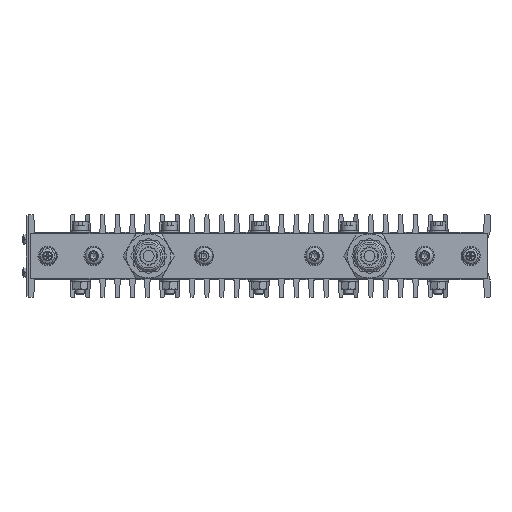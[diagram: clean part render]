
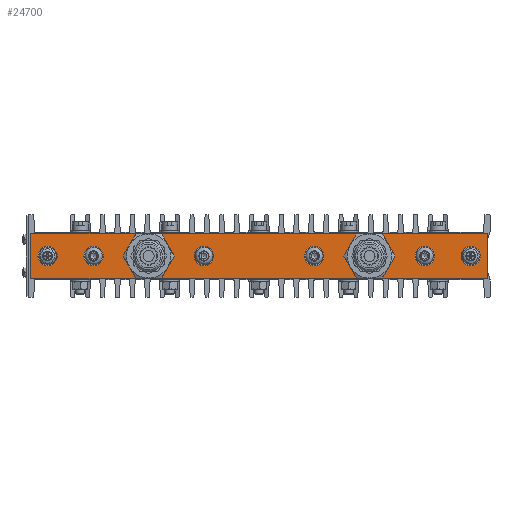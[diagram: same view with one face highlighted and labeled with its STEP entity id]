
A CAD part, front view. The second image highlights one B-rep face of the part: STEP entity #24700.
In plain terms, the highlighted planar face has unit normal (0, -1, 0).
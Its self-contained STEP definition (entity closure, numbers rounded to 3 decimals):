
#679=LINE($,#37001,#2047);
#680=LINE($,#37003,#2048);
#681=LINE($,#37005,#2049);
#682=LINE($,#37006,#2050);
#2047=VECTOR($,#29729,248.);
#2048=VECTOR($,#29730,25.);
#2049=VECTOR($,#29731,248.);
#2050=VECTOR($,#29732,25.);
#3936=PLANE($,#26409);
#4687=FACE_BOUND($,#6944,.T.);
#4688=FACE_BOUND($,#6945,.T.);
#4689=FACE_BOUND($,#6946,.T.);
#4690=FACE_BOUND($,#6947,.T.);
#4691=FACE_BOUND($,#6948,.T.);
#4692=FACE_BOUND($,#6949,.T.);
#4693=FACE_BOUND($,#6950,.T.);
#4694=FACE_BOUND($,#6951,.T.);
#4695=FACE_BOUND($,#6952,.T.);
#6944=EDGE_LOOP($,(#16408));
#6945=EDGE_LOOP($,(#16409));
#6946=EDGE_LOOP($,(#16410));
#6947=EDGE_LOOP($,(#16411));
#6948=EDGE_LOOP($,(#16412));
#6949=EDGE_LOOP($,(#16413));
#6950=EDGE_LOOP($,(#16414));
#6951=EDGE_LOOP($,(#16415,#16416,#16417,#16418));
#6952=EDGE_LOOP($,(#16419));
#8980=CIRCLE($,#26408,12.);
#8981=CIRCLE($,#26410,12.);
#8982=CIRCLE($,#26411,5.25);
#8983=CIRCLE($,#26412,5.25);
#8984=CIRCLE($,#26413,5.25);
#8985=CIRCLE($,#26414,5.25);
#8986=CIRCLE($,#26415,5.25);
#8987=CIRCLE($,#26416,5.25);
#10306=VERTEX_POINT($,#36982);
#10307=VERTEX_POINT($,#36985);
#10308=VERTEX_POINT($,#36987);
#10309=VERTEX_POINT($,#36989);
#10310=VERTEX_POINT($,#36991);
#10311=VERTEX_POINT($,#36993);
#10312=VERTEX_POINT($,#36995);
#10313=VERTEX_POINT($,#36997);
#10314=VERTEX_POINT($,#36999);
#10315=VERTEX_POINT($,#37000);
#10316=VERTEX_POINT($,#37002);
#10317=VERTEX_POINT($,#37004);
#12753=EDGE_CURVE($,#10306,#10306,#8980,.T.);
#12754=EDGE_CURVE($,#10307,#10307,#8981,.T.);
#12755=EDGE_CURVE($,#10308,#10308,#8982,.T.);
#12756=EDGE_CURVE($,#10309,#10309,#8983,.T.);
#12757=EDGE_CURVE($,#10310,#10310,#8984,.T.);
#12758=EDGE_CURVE($,#10311,#10311,#8985,.T.);
#12759=EDGE_CURVE($,#10312,#10312,#8986,.T.);
#12760=EDGE_CURVE($,#10313,#10313,#8987,.T.);
#12761=EDGE_CURVE($,#10314,#10315,#679,.T.);
#12762=EDGE_CURVE($,#10315,#10316,#680,.T.);
#12763=EDGE_CURVE($,#10316,#10317,#681,.T.);
#12764=EDGE_CURVE($,#10317,#10314,#682,.T.);
#16408=ORIENTED_EDGE($,*,*,#12754,.T.);
#16409=ORIENTED_EDGE($,*,*,#12755,.T.);
#16410=ORIENTED_EDGE($,*,*,#12756,.T.);
#16411=ORIENTED_EDGE($,*,*,#12757,.T.);
#16412=ORIENTED_EDGE($,*,*,#12758,.T.);
#16413=ORIENTED_EDGE($,*,*,#12759,.T.);
#16414=ORIENTED_EDGE($,*,*,#12760,.T.);
#16415=ORIENTED_EDGE($,*,*,#12761,.T.);
#16416=ORIENTED_EDGE($,*,*,#12762,.T.);
#16417=ORIENTED_EDGE($,*,*,#12763,.T.);
#16418=ORIENTED_EDGE($,*,*,#12764,.T.);
#16419=ORIENTED_EDGE($,*,*,#12753,.T.);
#24700=ADVANCED_FACE($,(#4687,#4688,#4689,#4690,#4691,#4692,#4693,#4694,
#4695),#3936,.F.);
#26408=AXIS2_PLACEMENT_3D($,#36983,#29711,#29712);
#26409=AXIS2_PLACEMENT_3D($,#36984,#29713,#29714);
#26410=AXIS2_PLACEMENT_3D($,#36986,#29715,#29716);
#26411=AXIS2_PLACEMENT_3D($,#36988,#29717,#29718);
#26412=AXIS2_PLACEMENT_3D($,#36990,#29719,#29720);
#26413=AXIS2_PLACEMENT_3D($,#36992,#29721,#29722);
#26414=AXIS2_PLACEMENT_3D($,#36994,#29723,#29724);
#26415=AXIS2_PLACEMENT_3D($,#36996,#29725,#29726);
#26416=AXIS2_PLACEMENT_3D($,#36998,#29727,#29728);
#29711=DIRECTION('center_axis',(0.,1.,0.));
#29712=DIRECTION('ref_axis',(1.,0.,0.));
#29713=DIRECTION('center_axis',(0.,1.,0.));
#29714=DIRECTION('ref_axis',(0.,0.,1.));
#29715=DIRECTION('center_axis',(0.,1.,0.));
#29716=DIRECTION('ref_axis',(1.,0.,0.));
#29717=DIRECTION('center_axis',(0.,1.,0.));
#29718=DIRECTION('ref_axis',(-1.,0.,0.));
#29719=DIRECTION('center_axis',(0.,1.,0.));
#29720=DIRECTION('ref_axis',(-1.,0.,0.));
#29721=DIRECTION('center_axis',(0.,1.,0.));
#29722=DIRECTION('ref_axis',(-1.,0.,0.));
#29723=DIRECTION('center_axis',(0.,1.,0.));
#29724=DIRECTION('ref_axis',(1.,0.,0.));
#29725=DIRECTION('center_axis',(0.,1.,0.));
#29726=DIRECTION('ref_axis',(1.,0.,0.));
#29727=DIRECTION('center_axis',(0.,1.,0.));
#29728=DIRECTION('ref_axis',(1.,0.,0.));
#29729=DIRECTION($,(1.,0.,0.));
#29730=DIRECTION($,(0.,0.,1.));
#29731=DIRECTION($,(-1.,0.,0.));
#29732=DIRECTION($,(0.,0.,-1.));
#36982=CARTESIAN_POINT('',(48.,-8.,0.));
#36983=CARTESIAN_POINT('Origin',(60.,-8.,0.));
#36984=CARTESIAN_POINT('Origin',(0.,-8.,0.));
#36985=CARTESIAN_POINT('',(-72.,-8.,0.));
#36986=CARTESIAN_POINT('Origin',(-60.,-8.,0.));
#36987=CARTESIAN_POINT('',(109.75,-8.,0.));
#36988=CARTESIAN_POINT('Origin',(115.,-8.,0.));
#36989=CARTESIAN_POINT('',(84.75,-8.,0.));
#36990=CARTESIAN_POINT('Origin',(90.,-8.,0.));
#36991=CARTESIAN_POINT('',(24.75,-8.,0.));
#36992=CARTESIAN_POINT('Origin',(30.,-8.,0.));
#36993=CARTESIAN_POINT('',(-109.75,-8.,0.));
#36994=CARTESIAN_POINT('Origin',(-115.,-8.,0.));
#36995=CARTESIAN_POINT('',(-84.75,-8.,0.));
#36996=CARTESIAN_POINT('Origin',(-90.,-8.,0.));
#36997=CARTESIAN_POINT('',(-24.75,-8.,0.));
#36998=CARTESIAN_POINT('Origin',(-30.,-8.,0.));
#36999=CARTESIAN_POINT('',(-124.,-8.,-12.5));
#37000=CARTESIAN_POINT('',(124.,-8.,-12.5));
#37001=CARTESIAN_POINT($,(-124.,-8.,-12.5));
#37002=CARTESIAN_POINT('',(124.,-8.,12.5));
#37003=CARTESIAN_POINT($,(124.,-8.,-12.5));
#37004=CARTESIAN_POINT('',(-124.,-8.,12.5));
#37005=CARTESIAN_POINT($,(124.,-8.,12.5));
#37006=CARTESIAN_POINT($,(-124.,-8.,12.5));
